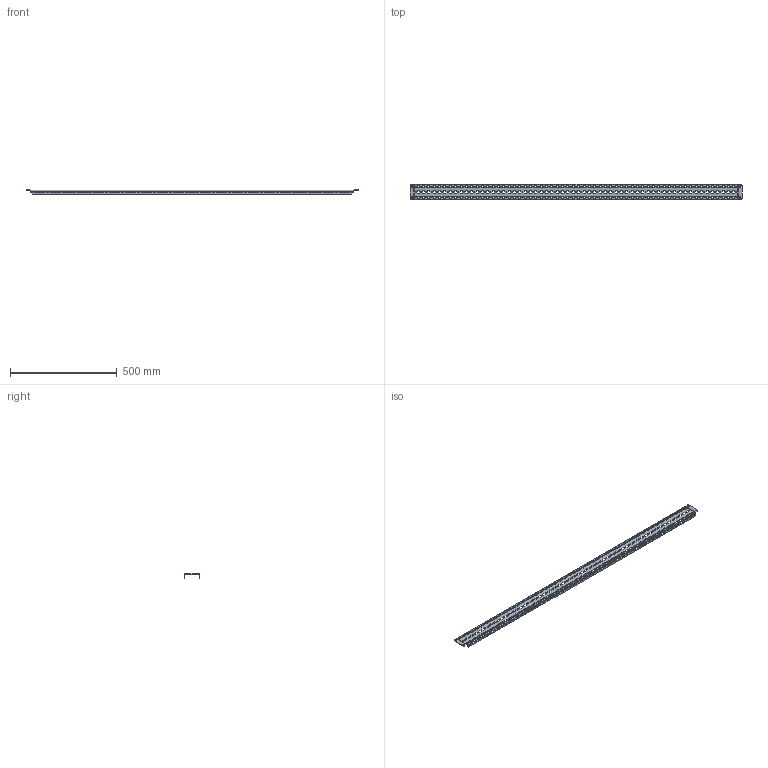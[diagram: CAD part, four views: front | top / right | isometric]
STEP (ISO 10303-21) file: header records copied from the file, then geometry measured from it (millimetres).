
FILE_DESCRIPTION (( 'STEP AP203' ), '1' );
FILE_NAME ('MRD 160.09 Ðåéêà ìîíòàæíàÿ âåðòèêàëüíàÿ.STEP', '2025-05-15T12:34:36', ( '' ), ( '' ), 'SwSTEP 2.0', 'SolidWorks 2019', '' );
FILE_SCHEMA (( 'CONFIG_CONTROL_DESIGN' ));
Length unit declared in the file: millimetre
Products named in the file (1): MRD 160.09 Ðåéêà ìîíòàæíàÿ âåðòèêàëüíàÿ
Bounding box: 1552 x 74 x 19.03 mm (x, y, z)
Volume: 256652.7 mm3; surface area: 294421.9 mm2
Topology: 1 solids, 1 shells, 2848 faces, 8490 edges, 5644 vertices
Faces by surface type: plane 2206, cylinder 642
Entity records: 97307 total; most frequent: CARTESIAN_POINT 16983, ORIENTED_EDGE 16980, DIRECTION 15472, EDGE_CURVE 8490, VECTOR 7206, LINE 7206, VERTEX_POINT 5644, AXIS2_PLACEMENT_3D 4133
